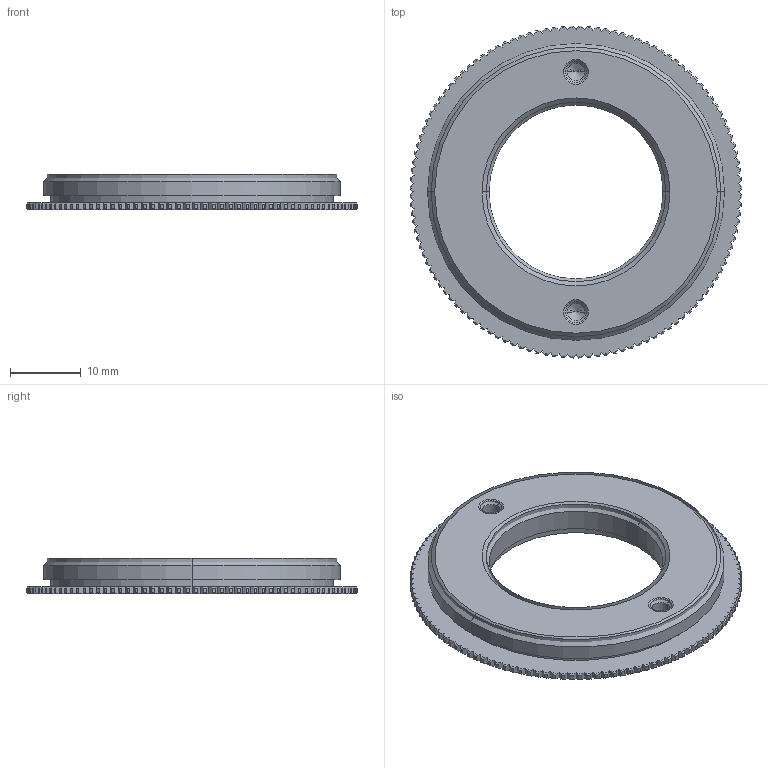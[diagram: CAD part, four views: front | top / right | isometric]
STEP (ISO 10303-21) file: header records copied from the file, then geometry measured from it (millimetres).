
FILE_DESCRIPTION((''),'2;1');
FILE_NAME('D-01-34-26-0919','2022-01-12T11:04:02',('mafangning'),(''),'CREO PARAMETRIC BY PTC INC, 2020044','CREO PARAMETRIC BY PTC INC, 2020044','');
FILE_SCHEMA(('CONFIG_CONTROL_DESIGN'));
Length unit declared in the file: millimetre
Products named in the file (1): D-01-34-26-0919
Bounding box: 46.99 x 46.99 x 5 mm (x, y, z)
Volume: 4491.9 mm3; surface area: 4584.1 mm2
Topology: 1 solids, 5 shells, 648 faces, 1906 edges, 1264 vertices
Faces by surface type: cone 258, plane 248, cylinder 142
Entity records: 22943 total; most frequent: CARTESIAN_POINT 6087, ORIENTED_EDGE 3788, DIRECTION 3262, EDGE_CURVE 1902, VERTEX_POINT 1264, AXIS2_PLACEMENT_3D 1191, VECTOR 880, LINE 880
